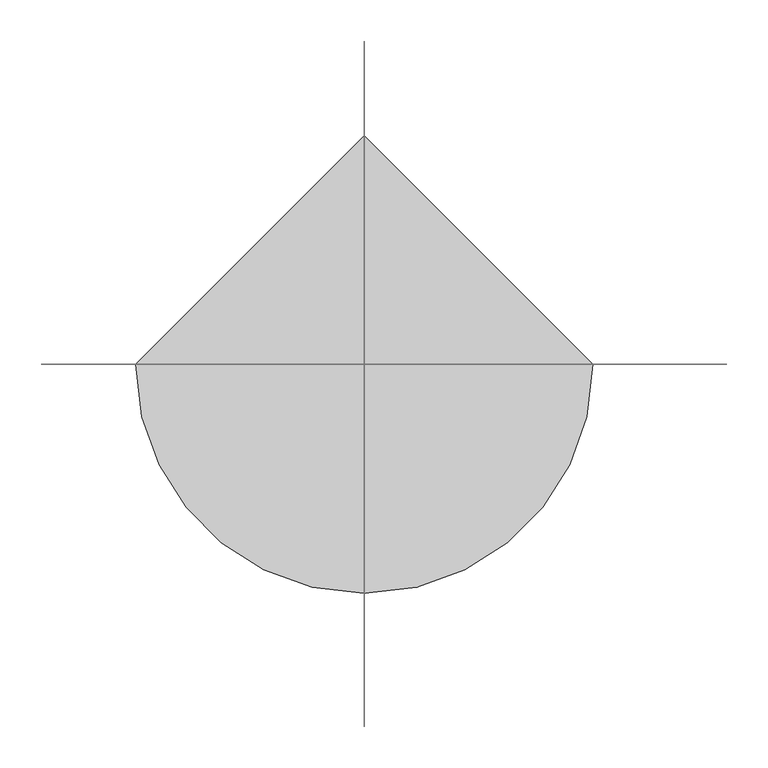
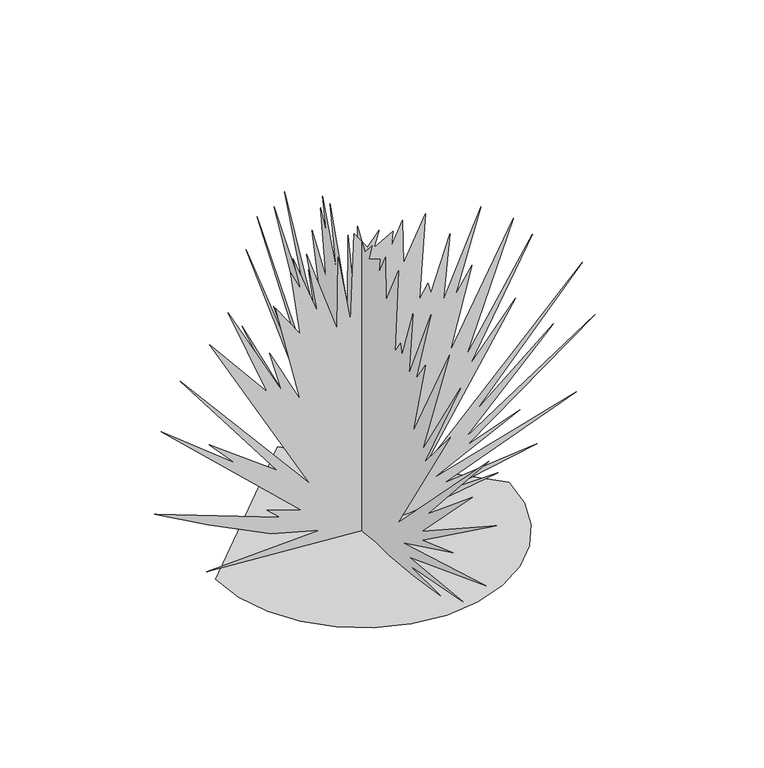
"""IFC4 building model written with IfcOpenShell, lengths in millimetres: geographic element geometry, RPC Vegetação - Tropical : Iuca - 0,6 metros."""

from ifc_helpers import new_model, si_unit, origin, place, context, project, spatial, triangles, source, transform, mapped, element, save


def geographic_element_3415abb8(model_context):
    return source(origin(), model_context, "Body", "Tessellation", [
        triangles([(0.1799897, -5.7252047, 0.0), (0.1800089, 294.2752427, 20.8333418), (0.1799966, 80.3860635, 29.1667744), (0.1800035, 172.052634, 54.1667927), (0.1800144, 292.8852294, 115.2778473), (0.1800237, 392.885321, 170.8333952), (0.1800042, 155.3861186, 81.9445621), (0.180007, 180.386137, 104.166834), (0.1800018, 115.1083446, 81.9445621), (0.1800325, 380.3853209, 331.9452544), (0.1800176, 241.4971961, 220.8334319), (0.1800237, 290.1077282, 273.610225), (0.1800103, 160.9416298, 177.7779023), (0.1800356, 344.2752794, 419.4453278), (0.1800038, 99.8305798, 130.555603), (0.1800355, 288.7202402, 473.6103719), (0.1800212, 180.386137, 341.6677714), (0.1800365, 253.9977048, 525.00044), (0.1800191, 152.6083812, 334.7227738), (0.1800253, 174.8306439, 416.6678447), (0.1800152, 117.8860911, 304.167753), (0.1800298, 163.7193854, 502.7779229), (0.1800231, 117.8860911, 436.1103353), (0.1800318, 135.9416114, 563.8904717), (0.1800283, 116.4970952, 525.00044), (0.180033, 130.3861093, 590.2779599), (0.180023, 84.5525697, 468.0553694), (0.1800315, 105.3860819, 590.2779599), (0.1800179, 47.0527875, 420.8328521), (0.1800264, 45.663787, 563.8904717), (0.1800169, 22.052617, 427.7778497), (0.1800267, 15.1081371, 600.0004769), (0.1800231, -9.8918086, 563.8904717), (0.1800233, -32.1140259, 590.2779599), (0.180022, -22.3918427, 558.3329621), (0.1800211, -58.503047, 579.1679549), (0.1800196, -55.7252959, 551.3904353), (0.1800209, -76.5585628, 594.4454744), (0.1800157, -77.9475587, 508.3329254), (0.1800183, -119.6140924, 593.0554793), (0.1800089, -108.5030882, 425.0003303), (0.1800095, -125.1698489, 451.3903619), (0.180008, -130.7253601, 430.5553328), (0.1800121, -166.8363826, 536.110445), (0.1800052, -154.3363825, 408.3328156), (0.1800106, -225.1696861, 569.4454742), (0.180004, -176.5586453, 411.1103351), (0.180005, -208.5031707, 458.3328524), (0.179998, -166.8363826, 300.0002385), (0.1800043, -286.2802365, 525.00044), (0.1799951, -197.3919122, 281.9452359), (0.1799995, -322.3927488, 480.5554058), (0.1799934, -204.3364192, 261.1102067), (0.1799944, -290.4477329, 363.8902885), (0.1799882, -118.2253418, 87.5000733), (0.1799886, -416.8378198, 391.6678082), (0.1799871, -215.4476778, 165.277884), (0.1799856, -362.6703049, 287.5002384), (0.1799854, -196.0031525, 118.0555938), (0.1799804, -440.4478612, 277.7777214), (0.1799843, -198.7809081, 101.3890784), (0.1799804, -298.7802366, 137.5001101), (0.1799855, -134.8918572, 58.333299), (0.179974, -405.725344, 136.1111142), (0.1799833, -155.7253784, 41.6667836), (0.1799738, -330.7252707, 58.333299), (0.1799822, -157.11412, 25.0000206), (0.1799763, -257.1152108, 26.3890211), (0.1799808, -168.2253785, 12.5000103), (0.1799851, -87.669567, 4.1666533), (0.1799877, -43.2252867, 4.1666533), (-277.616067, 0.0, 0.0922626), (-270.2710575, -63.6563025, 0.0922626), (-249.3550376, -122.1146029, 0.0922626), (-216.5405072, -173.699899, 0.0922626), (-173.5032359, -216.7371703, 0.0922626), (-121.9179307, -249.5517008, 0.0922626), (-63.4596303, -270.4677206, 0.0922626), (0.1966832, -277.8127301, 0.0922626), (63.8529748, -270.4677206, 0.0922626), (122.3112752, -249.5517008, 0.0922626), (173.8965621, -216.7371703, 0.0922626), (216.9338335, -173.699899, 0.0922626), (249.7483639, -122.1146029, 0.0922626), (270.6643837, -63.6563025, 0.0922626), (278.0093933, 2.43e-05, 0.0922626), (0.1966346, 277.8127301, 0.0922626), (5.9218758, 0.016681, 0.0), (-294.0785796, 0.0166798, 20.8333418), (-80.1893913, 0.0166793, 29.1667744), (-171.8562252, 0.0166778, 54.1667927), (-292.6885663, 0.0166741, 115.2778473), (-392.6886397, 0.0166708, 170.8333952), (-155.1894555, 0.0166761, 81.9445621), (-180.1894738, 0.0166748, 104.166834), (-114.9116723, 0.0166761, 81.9445621), (-380.1886396, 0.0166612, 331.9452544), (-241.3005329, 0.0166679, 220.8334319), (-289.9110651, 0.0166647, 273.610225), (-160.7449667, 0.0166704, 177.7779023), (-344.0785981, 0.016656, 419.4453278), (-99.6339076, 0.0166732, 130.555603), (-288.5235771, 0.0166528, 473.6103719), (-180.1894738, 0.0166607, 341.6677714), (-253.8010417, 0.0166497, 525.00044), (-152.411718, 0.0166611, 334.7227738), (-174.6339808, 0.0166562, 416.6678447), (-117.6894188, 0.0166629, 304.167753), (-163.5227222, 0.016651, 502.7779229), (-117.6894188, 0.016655, 436.1103353), (-135.7449392, 0.0166474, 563.8904717), (-116.300423, 0.0166497, 525.00044), (-130.1894371, 0.0166458, 590.2779599), (-84.3558975, 0.0166531, 468.0553694), (-105.1894097, 0.0166458, 590.2779599), (-46.8561152, 0.0166559, 420.8328521), (-45.4671148, 0.0166474, 563.8904717), (-21.855947, 0.0166555, 427.7778497), (-14.911491, 0.0166453, 600.0004769), (10.0885046, 0.0166474, 563.8904717), (32.3106959, 0.0166458, 590.2779599), (22.5885127, 0.0166477, 558.3329621), (58.6997192, 0.0166465, 579.1679549), (55.9219681, 0.0166481, 551.3904353), (76.755235, 0.0166456, 594.4454744), (78.1442309, 0.0166507, 508.3329254), (119.8107646, 0.0166457, 593.0554793), (108.6997604, 0.0166557, 425.0003303), (125.3665211, 0.0166541, 451.3903619), (130.9220323, 0.0166553, 430.5553328), (167.0330458, 0.0166491, 536.110445), (154.5330457, 0.0166567, 408.3328156), (225.3663493, 0.0166471, 569.4454742), (176.7553084, 0.0166565, 411.1103351), (208.6998339, 0.0166537, 458.3328524), (167.0330458, 0.0166631, 300.0002385), (286.4768997, 0.0166497, 525.00044), (197.5885753, 0.0166642, 281.9452359), (322.5894301, 0.0166524, 480.5554058), (204.5330824, 0.0166655, 261.1102067), (290.644396, 0.0166593, 363.8902885), (118.422014, 0.0166758, 87.5000733), (417.0345011, 0.0166577, 391.6678082), (215.6443409, 0.0166712, 165.277884), (362.8669862, 0.0166639, 287.5002384), (196.1998156, 0.016674, 118.0555938), (440.6445425, 0.0166645, 277.7777214), (198.9775712, 0.016675, 101.3890784), (298.9768998, 0.0166728, 137.5001101), (135.0885294, 0.0166776, 58.333299), (405.9220253, 0.0166729, 136.1111142), (155.9220416, 0.0166785, 41.6667836), (330.9219521, 0.0166776, 58.333299), (157.3107831, 0.0166795, 25.0000206), (257.3118739, 0.0166795, 26.3890211), (168.4220417, 0.0166803, 12.5000103), (87.8662392, 0.0166808, 4.1666533), (43.4219589, 0.0166808, 4.1666533)], [[68, 67, 69], [69, 67, 70], [64, 63, 65], [62, 61, 63], [58, 57, 59], [56, 55, 57], [57, 55, 59], [52, 51, 53], [50, 49, 51], [48, 47, 49], [46, 45, 47], [47, 45, 49], [40, 39, 41], [36, 35, 37], [34, 33, 35], [28, 27, 29], [26, 25, 27], [24, 23, 25], [22, 21, 23], [20, 19, 21], [16, 15, 17], [12, 11, 13], [10, 9, 11], [11, 9, 13], [8, 7, 9], [2, 1, 3], [66, 65, 67], [67, 65, 70], [65, 63, 70], [60, 59, 61], [61, 59, 63], [59, 55, 63], [63, 55, 70], [54, 53, 55], [53, 51, 55], [51, 49, 55], [49, 45, 55], [44, 43, 45], [45, 43, 55], [43, 42, 55], [42, 41, 55], [55, 41, 70], [41, 39, 70], [70, 39, 71], [39, 38, 71], [38, 37, 71], [37, 35, 71], [71, 35, 1], [35, 33, 1], [33, 32, 1], [18, 17, 19], [17, 15, 19], [19, 15, 21], [14, 13, 15], [13, 9, 15], [6, 5, 7], [5, 4, 7], [4, 3, 7], [7, 3, 9], [9, 3, 15], [21, 15, 23], [23, 15, 25], [25, 15, 27], [15, 3, 27], [27, 3, 29], [3, 1, 29], [29, 1, 30], [30, 1, 31], [1, 32, 31], [86, 87, 72], [85, 86, 72], [85, 72, 73], [84, 85, 73], [84, 73, 74], [84, 74, 75], [83, 84, 75], [82, 83, 75], [82, 75, 76], [82, 76, 77], [82, 77, 78], [82, 78, 79], [82, 79, 80], [82, 80, 81], [154, 155, 156], [154, 156, 157], [150, 151, 152], [148, 149, 150], [144, 145, 146], [142, 143, 144], [142, 144, 146], [138, 139, 140], [136, 137, 138], [134, 135, 136], [132, 133, 134], [132, 134, 136], [126, 127, 128], [122, 123, 124], [120, 121, 122], [114, 115, 116], [112, 113, 114], [110, 111, 112], [108, 109, 110], [106, 107, 108], [102, 103, 104], [98, 99, 100], [96, 97, 98], [96, 98, 100], [94, 95, 96], [88, 89, 90], [152, 153, 154], [152, 154, 157], [150, 152, 157], [146, 147, 148], [146, 148, 150], [142, 146, 150], [142, 150, 157], [140, 141, 142], [138, 140, 142], [136, 138, 142], [132, 136, 142], [130, 131, 132], [130, 132, 142], [129, 130, 142], [128, 129, 142], [128, 142, 157], [126, 128, 157], [126, 157, 158], [125, 126, 158], [124, 125, 158], [122, 124, 158], [122, 158, 88], [120, 122, 88], [119, 120, 88], [104, 105, 106], [102, 104, 106], [102, 106, 108], [100, 101, 102], [96, 100, 102], [92, 93, 94], [91, 92, 94], [90, 91, 94], [90, 94, 96], [90, 96, 102], [102, 108, 110], [102, 110, 112], [102, 112, 114], [90, 102, 114], [90, 114, 116], [88, 90, 116], [88, 116, 117], [88, 117, 118], [119, 88, 118]], closed=False),
    ])


if __name__ == "__main__":
    model = new_model("IFC4")
    model_context = context("Model", 3, world=origin())
    ifc_project = project(units=[si_unit("LENGTHUNIT", "METRE", prefix="MILLI")], contexts=[model_context])
    site = spatial("IfcSite", under=ifc_project)
    building = spatial("IfcBuilding", under=site)
    placement = place(None, origin())
    geographic_element_shape = geographic_element_3415abb8(model_context)
    element("IfcGeographicElement", 1, ObjectType="RPC Vegetação - Tropical : Iuca - 0,6 metros", at=placement, inside=building, context=model_context, shape_type="MappedRepresentation", body=[
        mapped(geographic_element_shape, transform((0.0, 0.0, 0.0), x_axis=(1.0, 0.0, 0.0), y_axis=(0.0, 1.0, 0.0), z_axis=(0.0, 0.0, 1.0))),
    ])
    save(model, "model.ifc")
